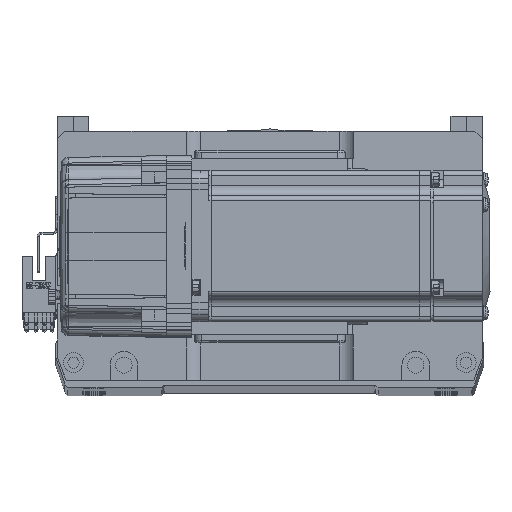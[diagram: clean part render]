
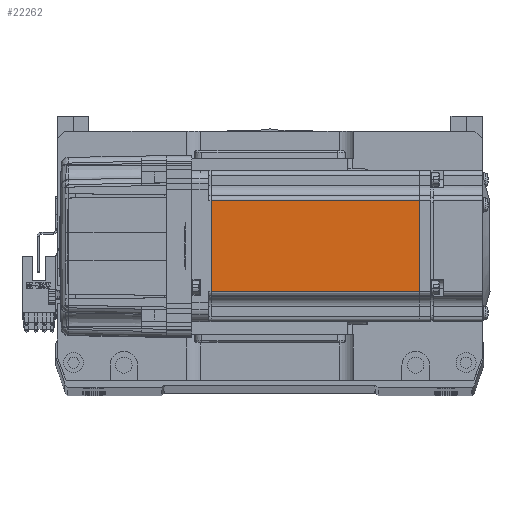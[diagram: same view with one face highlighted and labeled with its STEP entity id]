
A CAD part, top view. The second image highlights one B-rep face of the part: STEP entity #22262.
In plain terms, the highlighted planar face has unit normal (0, 0, 1) as drawn and (0, -1, 0) by its records, which use the part's own axes.
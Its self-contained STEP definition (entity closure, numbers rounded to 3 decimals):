
#237 = AXIS2_PLACEMENT_3D ( 'NONE', #32647, #48658, #53363 ) ;
#916 = CARTESIAN_POINT ( 'NONE',  ( -6.5, -30., 18. ) ) ;
#2814 = ORIENTED_EDGE ( 'NONE', *, *, #8939, .T. ) ;
#4475 = CARTESIAN_POINT ( 'NONE',  ( -7.75, -30., -25. ) ) ;
#8939 = EDGE_CURVE ( 'NONE', #43290, #63403, #59511, .T. ) ;
#9308 = ORIENTED_EDGE ( 'NONE', *, *, #25255, .T. ) ;
#9553 = CARTESIAN_POINT ( 'NONE',  ( -90.45, -30., -18. ) ) ;
#10779 = CARTESIAN_POINT ( 'NONE',  ( -7.75, -30., 18. ) ) ;
#11987 = ORIENTED_EDGE ( 'NONE', *, *, #35875, .T. ) ;
#12075 = VECTOR ( 'NONE', #65414, 1000. ) ;
#12449 = CARTESIAN_POINT ( 'NONE',  ( -7.75, -30., -18. ) ) ;
#17417 = PLANE ( 'NONE',  #237 ) ;
#22262 = ADVANCED_FACE ( 'NONE', ( #55608 ), #17417, .T. ) ;
#24654 = LINE ( 'NONE', #42825, #61245 ) ;
#25255 = EDGE_CURVE ( 'NONE', #56702, #43290, #29728, .T. ) ;
#25720 = LINE ( 'NONE', #60214, #12075 ) ;
#27900 = CARTESIAN_POINT ( 'NONE',  ( -90.45, -30., 18. ) ) ;
#29728 = LINE ( 'NONE', #4475, #64022 ) ;
#32647 = CARTESIAN_POINT ( 'NONE',  ( -6.5, -30., -25. ) ) ;
#35571 = VERTEX_POINT ( 'NONE', #9553 ) ;
#35875 = EDGE_CURVE ( 'NONE', #63403, #35571, #24654, .T. ) ;
#37829 = ORIENTED_EDGE ( 'NONE', *, *, #54582, .T. ) ;
#41549 = DIRECTION ( 'NONE',  ( -1., 0., 0. ) ) ;
#42825 = CARTESIAN_POINT ( 'NONE',  ( -90.45, -30., -25. ) ) ;
#43290 = VERTEX_POINT ( 'NONE', #10779 ) ;
#44402 = VECTOR ( 'NONE', #41549, 1000. ) ;
#48658 = DIRECTION ( 'NONE',  ( 0., -1., 0. ) ) ;
#50943 = DIRECTION ( 'NONE',  ( 0., 0., 1. ) ) ;
#53363 = DIRECTION ( 'NONE',  ( 0., 0., -1. ) ) ;
#54582 = EDGE_CURVE ( 'NONE', #35571, #56702, #25720, .T. ) ;
#55608 = FACE_OUTER_BOUND ( 'NONE', #55857, .T. ) ;
#55857 = EDGE_LOOP ( 'NONE', ( #9308, #2814, #11987, #37829 ) ) ;
#56702 = VERTEX_POINT ( 'NONE', #12449 ) ;
#59511 = LINE ( 'NONE', #916, #44402 ) ;
#60214 = CARTESIAN_POINT ( 'NONE',  ( -6.5, -30., -18. ) ) ;
#61245 = VECTOR ( 'NONE', #63315, 1000. ) ;
#63315 = DIRECTION ( 'NONE',  ( 0., 0., -1. ) ) ;
#63403 = VERTEX_POINT ( 'NONE', #27900 ) ;
#64022 = VECTOR ( 'NONE', #50943, 1000. ) ;
#65414 = DIRECTION ( 'NONE',  ( 1., 0., 0. ) ) ;
